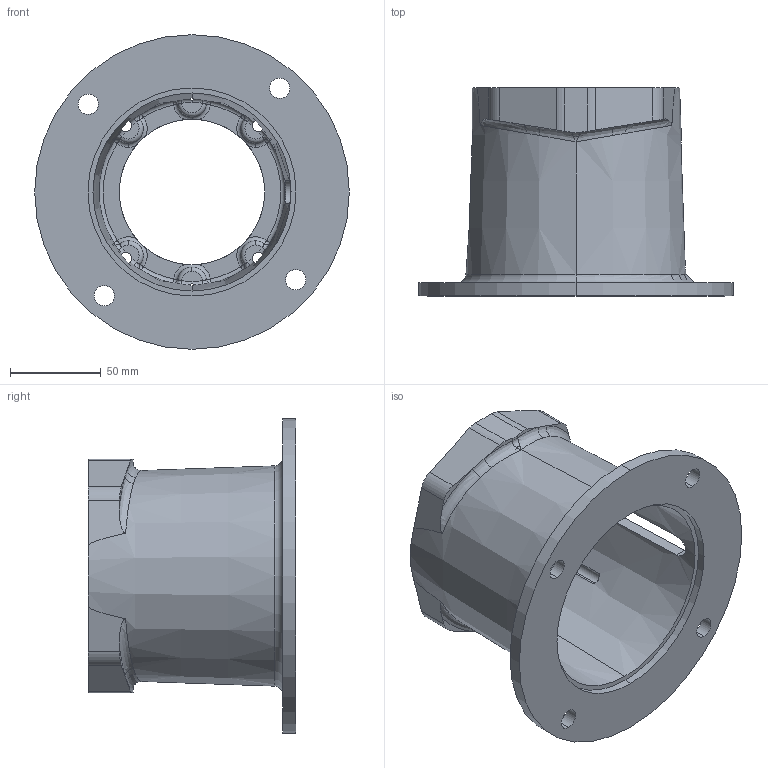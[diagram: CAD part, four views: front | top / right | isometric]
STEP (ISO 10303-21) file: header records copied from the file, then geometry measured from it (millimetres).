
FILE_DESCRIPTION (( 'STEP AP203' ), '1' );
FILE_NAME ('M0564580M.STEP', '2015-01-19T15:32:39', ( '' ), ( '' ), 'SwSTEP 2.0', 'SolidWorks 2014', '' );
FILE_SCHEMA (( 'CONFIG_CONTROL_DESIGN' ));
Length unit declared in the file: inch
Products named in the file (1): M0564580M
Bounding box: 172.97 x 114.3 x 172.97 mm (x, y, z)
Volume: 404628.7 mm3; surface area: 119604.4 mm2
Topology: 1 solids, 1 shells, 202 faces, 538 edges, 315 vertices
Faces by surface type: torus 46, cylinder 38, bspline 38, plane 36, sphere 24, cone 20
Entity records: 8446 total; most frequent: CARTESIAN_POINT 3643, ORIENTED_EDGE 1040, DIRECTION 992, EDGE_CURVE 520, AXIS2_PLACEMENT_3D 451, VERTEX_POINT 315, CIRCLE 286, EDGE_LOOP 221
